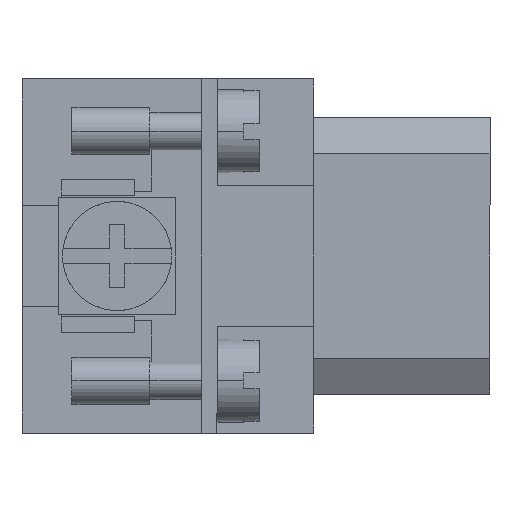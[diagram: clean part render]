
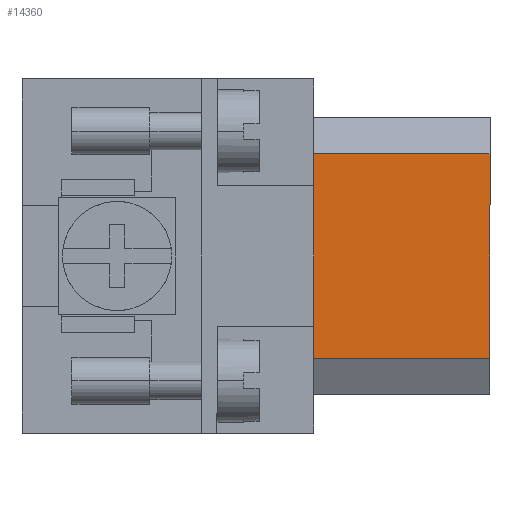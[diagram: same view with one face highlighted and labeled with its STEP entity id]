
A CAD part, left-side view. The second image highlights one B-rep face of the part: STEP entity #14360.
In plain terms, the highlighted planar face has unit normal (-1, 0, 0).
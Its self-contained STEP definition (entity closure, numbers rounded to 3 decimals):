
#718 = CARTESIAN_POINT ( 'NONE',  ( -19.05, 0., 6.55 ) ) ;
#1930 = VERTEX_POINT ( 'NONE', #2389 ) ;
#1990 = ORIENTED_EDGE ( 'NONE', *, *, #5177, .F. ) ;
#2061 = CARTESIAN_POINT ( 'NONE',  ( -19.05, 0., -6.55 ) ) ;
#2078 = ORIENTED_EDGE ( 'NONE', *, *, #16886, .F. ) ;
#2091 = CARTESIAN_POINT ( 'NONE',  ( -19.05, 48.271, -6.55 ) ) ;
#2272 = VERTEX_POINT ( 'NONE', #718 ) ;
#2389 = CARTESIAN_POINT ( 'NONE',  ( -19.05, -11.3, -6.55 ) ) ;
#2577 = DIRECTION ( 'NONE',  ( -1., 0., 0. ) ) ;
#2667 = FACE_OUTER_BOUND ( 'NONE', #16087, .T. ) ;
#2770 = LINE ( 'NONE', #4879, #14975 ) ;
#3168 = DIRECTION ( 'NONE',  ( 0., 0., -1. ) ) ;
#4551 = ORIENTED_EDGE ( 'NONE', *, *, #8286, .T. ) ;
#4819 = ORIENTED_EDGE ( 'NONE', *, *, #5996, .T. ) ;
#4879 = CARTESIAN_POINT ( 'NONE',  ( -19.05, -11.3, -6.55 ) ) ;
#5019 = PLANE ( 'NONE',  #5761 ) ;
#5177 = EDGE_CURVE ( 'NONE', #2272, #9070, #15285, .T. ) ;
#5761 = AXIS2_PLACEMENT_3D ( 'NONE', #10449, #2577, #11652 ) ;
#5996 = EDGE_CURVE ( 'NONE', #2272, #9693, #6536, .T. ) ;
#6536 = LINE ( 'NONE', #12545, #8200 ) ;
#6784 = VECTOR ( 'NONE', #8265, 1000. ) ;
#7767 = DIRECTION ( 'NONE',  ( 0., 0., -1. ) ) ;
#8200 = VECTOR ( 'NONE', #3168, 1000. ) ;
#8265 = DIRECTION ( 'NONE',  ( 0., -1., 0. ) ) ;
#8286 = EDGE_CURVE ( 'NONE', #9693, #1930, #11775, .T. ) ;
#8686 = DIRECTION ( 'NONE',  ( 0., -1., 0. ) ) ;
#9070 = VERTEX_POINT ( 'NONE', #9858 ) ;
#9693 = VERTEX_POINT ( 'NONE', #2061 ) ;
#9858 = CARTESIAN_POINT ( 'NONE',  ( -19.05, -11.3, 6.55 ) ) ;
#10317 = VECTOR ( 'NONE', #8686, 1000. ) ;
#10449 = CARTESIAN_POINT ( 'NONE',  ( -19.05, 48.271, -6.55 ) ) ;
#10966 = CARTESIAN_POINT ( 'NONE',  ( -19.05, 48.271, 6.55 ) ) ;
#11652 = DIRECTION ( 'NONE',  ( 0., 1., 0. ) ) ;
#11775 = LINE ( 'NONE', #2091, #10317 ) ;
#12545 = CARTESIAN_POINT ( 'NONE',  ( -19.05, 0., -6.55 ) ) ;
#14360 = ADVANCED_FACE ( 'NONE', ( #2667 ), #5019, .T. ) ;
#14975 = VECTOR ( 'NONE', #7767, 1000. ) ;
#15285 = LINE ( 'NONE', #10966, #6784 ) ;
#16087 = EDGE_LOOP ( 'NONE', ( #4819, #4551, #2078, #1990 ) ) ;
#16886 = EDGE_CURVE ( 'NONE', #9070, #1930, #2770, .T. ) ;
